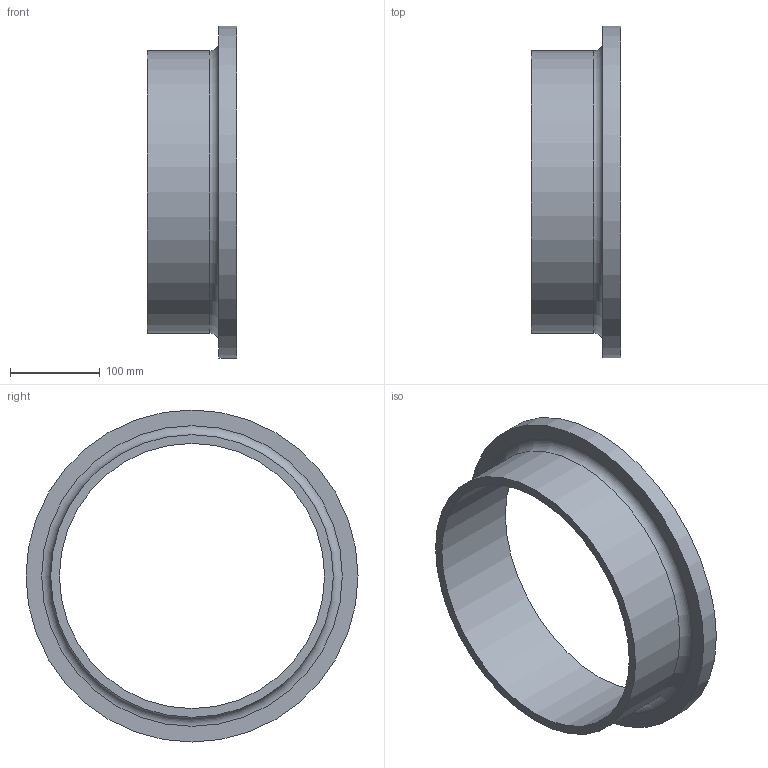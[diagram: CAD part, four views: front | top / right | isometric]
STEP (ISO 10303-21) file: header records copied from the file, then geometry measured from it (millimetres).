
FILE_DESCRIPTION((''),'2;1');
FILE_NAME('F:\Geberit_PE\Export\PE Vorschweissbund 3\stp\372744.stp','2011-03-17T21:46:22',(''),(''),'Autodesk Inventor 2011','Autodesk Inventor 2011','');
FILE_SCHEMA(('AUTOMOTIVE_DESIGN { 1 2 10303 214 0 1 1 1 }'));
Length unit declared in the file: millimetre
Products named in the file (1): 372744
Bounding box: 100 x 370 x 370 mm (x, y, z)
Volume: 1549825.7 mm3; surface area: 271595.9 mm2
Topology: 1 solids, 1 shells, 16 faces, 26 edges, 16 vertices
Faces by surface type: plane 6, cone 6, cylinder 3, torus 1
Full cylindrical faces by diameter (mm): 295.4 x1, 315 x1, 370 x1
Entity records: 354 total; most frequent: DIRECTION 66, CARTESIAN_POINT 49, AXIS2_PLACEMENT_3D 33, ORIENTED_EDGE 32, EDGE_LOOP 32, VERTEX_POINT 16, CIRCLE 16, EDGE_CURVE 16
